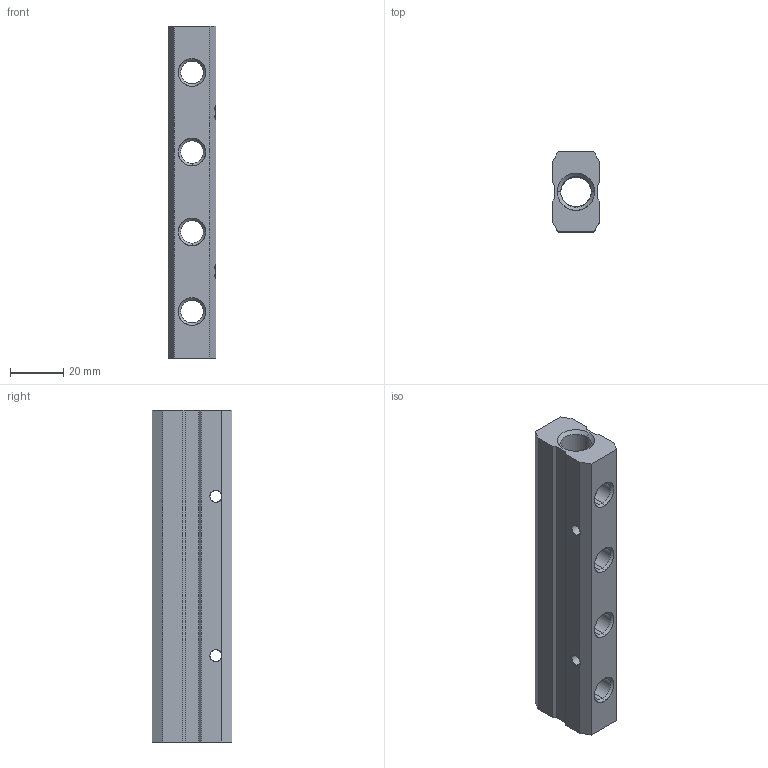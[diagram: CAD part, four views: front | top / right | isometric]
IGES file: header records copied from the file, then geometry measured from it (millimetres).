
Start section: SolidWorks IGES file using analytic representation for surfaces
Global section: file name: K:\Disegni Esecutivi\ACCESSORI\6048\ASSIEMI_.IGES_6048\060480011AW00A.igs; native system: SolidWorks 2016; preprocessor: SolidWorks 2016; author: cad01; date: 181116.144930; units: millimetre
Bounding box: 18 x 30 x 125 mm (x, y, z)
Surface area: 18308.2 mm2 (no closed solid volume)
Topology: 0 solids, 0 shells, 74 faces, 1568 edges, 1568 vertices
Faces by surface type: revolution 54, bspline 20
